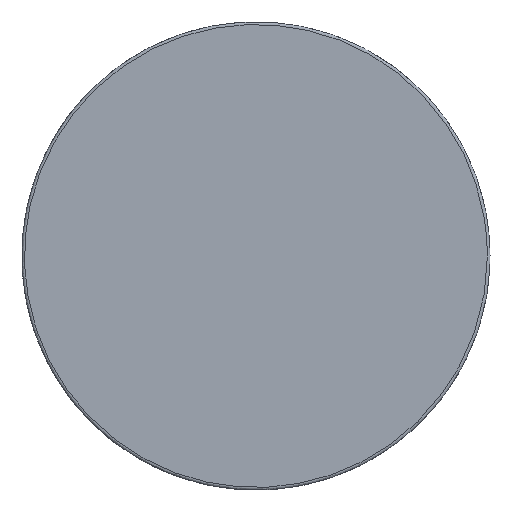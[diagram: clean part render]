
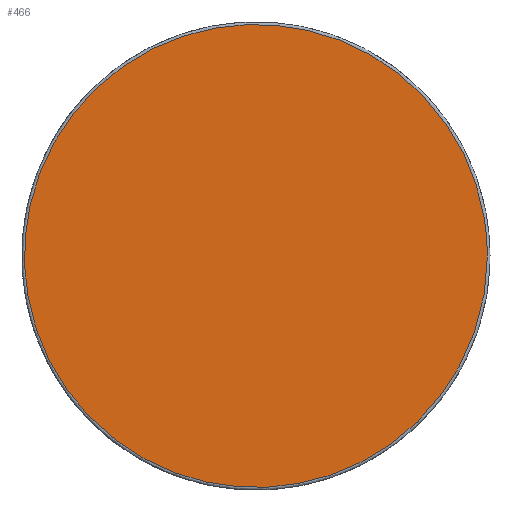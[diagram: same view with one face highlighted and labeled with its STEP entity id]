
A CAD part, top view. The second image highlights one B-rep face of the part: STEP entity #466.
In plain terms, the highlighted planar face has unit normal (0, 0, 1).
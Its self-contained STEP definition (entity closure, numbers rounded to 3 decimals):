
#466=ADVANCED_FACE('',(#719),#3298,.T.);
#719=FACE_OUTER_BOUND('',#972,.T.);
#972=EDGE_LOOP('',(#1245));
#1245=ORIENTED_EDGE('',*,*,#2270,.F.);
#2270=EDGE_CURVE('',#2930,#2930,#2781,.T.);
#2781=(
BOUNDED_CURVE()
B_SPLINE_CURVE(2,(#3964,#3965,#3966,#3967,#3968,#3969,#3970,#3971,#3972),
 .UNSPECIFIED.,.T.,.F.)
B_SPLINE_CURVE_WITH_KNOTS((3,2,2,2,3),(0.,1398.007,2796.013,
4194.02,5592.026),.UNSPECIFIED.)
CURVE()
GEOMETRIC_REPRESENTATION_ITEM()
RATIONAL_B_SPLINE_CURVE((1.,0.707,1.,0.707,1.,0.707,
1.,0.707,1.))
REPRESENTATION_ITEM('')
);
#2930=VERTEX_POINT('',#3947);
#3298=PLANE('',#3546);
#3546=AXIS2_PLACEMENT_3D('',#3872,#3709,$);
#3709=DIRECTION('',(0.,0.,1.));
#3872=CARTESIAN_POINT('',(11645.374,-4751.085,745.024));
#3947=CARTESIAN_POINT('',(13660.374,-5876.085,745.024));
#3964=CARTESIAN_POINT('',(13660.374,-5876.085,745.024));
#3965=CARTESIAN_POINT('',(13660.374,-6766.085,745.024));
#3966=CARTESIAN_POINT('',(12770.374,-6766.085,745.024));
#3967=CARTESIAN_POINT('',(11880.374,-6766.085,745.024));
#3968=CARTESIAN_POINT('',(11880.374,-5876.085,745.024));
#3969=CARTESIAN_POINT('',(11880.374,-4986.085,745.024));
#3970=CARTESIAN_POINT('',(12770.374,-4986.085,745.024));
#3971=CARTESIAN_POINT('',(13660.374,-4986.085,745.024));
#3972=CARTESIAN_POINT('',(13660.374,-5876.085,745.024));
